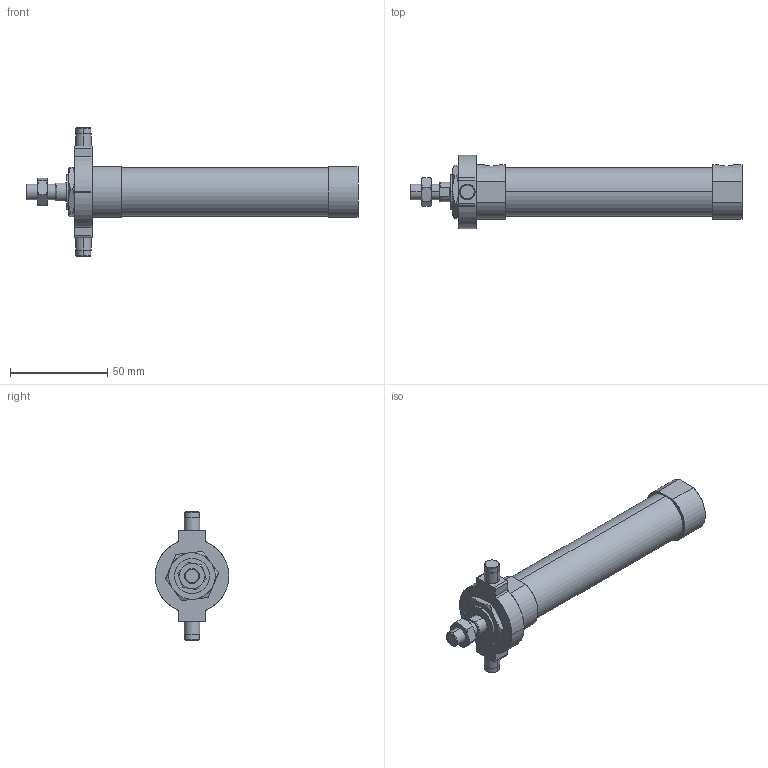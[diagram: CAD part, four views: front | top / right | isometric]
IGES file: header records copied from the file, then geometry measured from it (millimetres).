
Start section: SolidWorks IGES file using analytic representation for surfaces
Global section: file name: C:\Users\Toshiba\Desktop\JGND2-20-75-T.IGS; native system: SolidWorks 2014; preprocessor: SolidWorks 2014; author: Toshiba; date: 160804.102902; units: millimetre
Bounding box: 171 x 38 x 66 mm (x, y, z)
Surface area: 20164.2 mm2 (no closed solid volume)
Topology: 0 solids, 0 shells, 123 faces, 1972 edges, 1972 vertices
Faces by surface type: bspline 68, revolution 55
